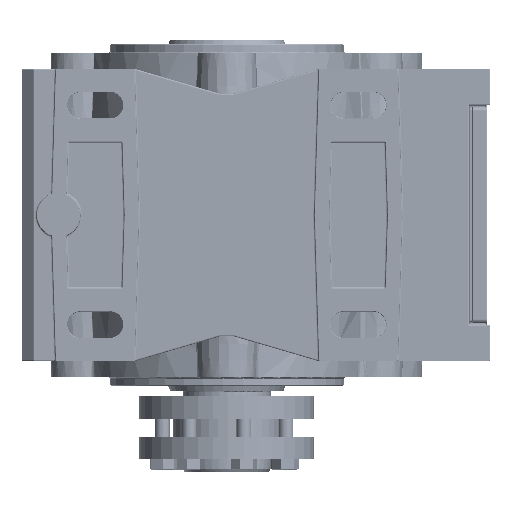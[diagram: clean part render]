
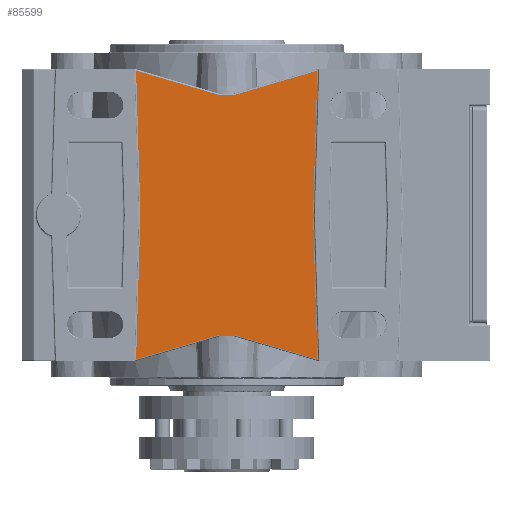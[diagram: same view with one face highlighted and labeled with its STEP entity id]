
A CAD part, left-side view. The second image highlights one B-rep face of the part: STEP entity #85599.
In plain terms, the highlighted planar face has unit normal (-1, 0, 0).
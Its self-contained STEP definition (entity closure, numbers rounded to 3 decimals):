
#79866=CARTESIAN_POINT('',(-69.0,-2.778,-62.561));
#79867=VERTEX_POINT('',#79866);
#79885=CARTESIAN_POINT('',(-69.0,-30.98,-70.826));
#79886=VERTEX_POINT('',#79885);
#79894=CARTESIAN_POINT('',(-69.0,-30.98,-70.826));
#79895=DIRECTION('',(0.0,0.96,0.281));
#79896=VECTOR('',#79895,29.388);
#79897=LINE('',#79894,#79896);
#79898=EDGE_CURVE('',#79886,#79867,#79897,.T.);
#79908=CARTESIAN_POINT('',(-69.0,-2.356,-62.5));
#79909=VERTEX_POINT('',#79908);
#79927=CARTESIAN_POINT('',(-69.0,-2.356,-64.));
#79928=DIRECTION('',(-1.0,0.,0.));
#79929=DIRECTION('',(0.,-0.142,0.99));
#79930=AXIS2_PLACEMENT_3D('',#79927,#79928,#79929);
#79931=CIRCLE('',#79930,1.5);
#79932=EDGE_CURVE('',#79867,#79909,#79931,.T.);
#79942=CARTESIAN_POINT('',(-69.0,2.356,-62.5));
#79943=VERTEX_POINT('',#79942);
#79960=CARTESIAN_POINT('',(-69.0,-2.356,-62.5));
#79961=DIRECTION('',(0.0,1.0,0.0));
#79962=VECTOR('',#79961,4.713);
#79963=LINE('',#79960,#79962);
#79964=EDGE_CURVE('',#79909,#79943,#79963,.T.);
#79974=CARTESIAN_POINT('',(-69.0,2.778,-62.561));
#79975=VERTEX_POINT('',#79974);
#79993=CARTESIAN_POINT('',(-69.0,2.356,-64.));
#79994=DIRECTION('',(-1.0,0.,0.));
#79995=DIRECTION('',(0.,0.142,0.99));
#79996=AXIS2_PLACEMENT_3D('',#79993,#79994,#79995);
#79997=CIRCLE('',#79996,1.5);
#79998=EDGE_CURVE('',#79943,#79975,#79997,.T.);
#80008=CARTESIAN_POINT('',(-69.,30.98,-70.826));
#80009=VERTEX_POINT('',#80008);
#80026=CARTESIAN_POINT('',(-69.0,2.778,-62.561));
#80027=DIRECTION('',(0.,0.96,-0.281));
#80028=VECTOR('',#80027,29.388);
#80029=LINE('',#80026,#80028);
#80030=EDGE_CURVE('',#79975,#80009,#80029,.T.);
#80319=CARTESIAN_POINT('',(-69.0,-29.501,-21.53));
#80320=VERTEX_POINT('',#80319);
#80328=CARTESIAN_POINT('',(-69.0,-29.501,-21.53));
#80329=DIRECTION('',(0.0,-0.03,-1.));
#80330=VECTOR('',#80329,49.319);
#80331=LINE('',#80328,#80330);
#80332=EDGE_CURVE('',#80320,#79886,#80331,.T.);
#80723=CARTESIAN_POINT('',(-69.0,2.778,19.561));
#80724=VERTEX_POINT('',#80723);
#80742=CARTESIAN_POINT('',(-69.,30.98,27.826));
#80743=VERTEX_POINT('',#80742);
#80751=CARTESIAN_POINT('',(-69.,30.98,27.826));
#80752=DIRECTION('',(0.,-0.96,-0.281));
#80753=VECTOR('',#80752,29.388);
#80754=LINE('',#80751,#80753);
#80755=EDGE_CURVE('',#80743,#80724,#80754,.T.);
#80765=CARTESIAN_POINT('',(-69.0,2.356,19.5));
#80766=VERTEX_POINT('',#80765);
#80784=CARTESIAN_POINT('',(-69.0,2.356,21.0));
#80785=DIRECTION('',(-1.0,0.,0.));
#80786=DIRECTION('',(0.,0.142,-0.99));
#80787=AXIS2_PLACEMENT_3D('',#80784,#80785,#80786);
#80788=CIRCLE('',#80787,1.5);
#80789=EDGE_CURVE('',#80724,#80766,#80788,.T.);
#80799=CARTESIAN_POINT('',(-69.0,-2.356,19.5));
#80800=VERTEX_POINT('',#80799);
#80817=CARTESIAN_POINT('',(-69.0,2.356,19.5));
#80818=DIRECTION('',(0.0,-1.0,0.0));
#80819=VECTOR('',#80818,4.713);
#80820=LINE('',#80817,#80819);
#80821=EDGE_CURVE('',#80766,#80800,#80820,.T.);
#80831=CARTESIAN_POINT('',(-69.0,-2.778,19.561));
#80832=VERTEX_POINT('',#80831);
#80850=CARTESIAN_POINT('',(-69.0,-2.356,21.0));
#80851=DIRECTION('',(-1.0,0.,0.));
#80852=DIRECTION('',(0.,-0.142,-0.99));
#80853=AXIS2_PLACEMENT_3D('',#80850,#80851,#80852);
#80854=CIRCLE('',#80853,1.5);
#80855=EDGE_CURVE('',#80800,#80832,#80854,.T.);
#80865=CARTESIAN_POINT('',(-69.0,-30.98,27.826));
#80866=VERTEX_POINT('',#80865);
#80883=CARTESIAN_POINT('',(-69.0,-2.778,19.561));
#80884=DIRECTION('',(0.0,-0.96,0.281));
#80885=VECTOR('',#80884,29.388);
#80886=LINE('',#80883,#80885);
#80887=EDGE_CURVE('',#80832,#80866,#80886,.T.);
#83580=CARTESIAN_POINT('',(-69.,29.5,-21.479));
#83581=VERTEX_POINT('',#83580);
#83589=CARTESIAN_POINT('',(-69.,29.5,-21.479));
#83590=DIRECTION('',(0.0,0.03,1.));
#83591=VECTOR('',#83590,49.328);
#83592=LINE('',#83589,#83591);
#83593=EDGE_CURVE('',#83581,#80743,#83592,.T.);
#83603=CARTESIAN_POINT('',(-69.,29.5,-21.521));
#83604=VERTEX_POINT('',#83603);
#83612=CARTESIAN_POINT('',(-69.,30.2,-21.5));
#83613=DIRECTION('',(-1.0,0.0,0.0));
#83614=DIRECTION('',(0.0,-1.0,0.0));
#83615=AXIS2_PLACEMENT_3D('',#83612,#83613,#83614);
#83616=CIRCLE('',#83615,0.7);
#83617=EDGE_CURVE('',#83604,#83581,#83616,.T.);
#83630=CARTESIAN_POINT('',(-69.,30.98,-70.826));
#83631=DIRECTION('',(0.0,-0.03,1.));
#83632=VECTOR('',#83631,49.328);
#83633=LINE('',#83630,#83632);
#83634=EDGE_CURVE('',#80009,#83604,#83633,.T.);
#85538=CARTESIAN_POINT('',(-69.0,-29.501,-21.47));
#85539=VERTEX_POINT('',#85538);
#85547=CARTESIAN_POINT('',(-69.0,-30.5,-21.5));
#85548=DIRECTION('',(-1.0,0.0,0.0));
#85549=DIRECTION('',(0.0,1.0,0.0));
#85550=AXIS2_PLACEMENT_3D('',#85547,#85548,#85549);
#85551=CIRCLE('',#85550,1.0);
#85552=EDGE_CURVE('',#85539,#80320,#85551,.T.);
#85565=CARTESIAN_POINT('',(-69.0,-30.98,27.826));
#85566=DIRECTION('',(0.0,0.03,-1.));
#85567=VECTOR('',#85566,49.319);
#85568=LINE('',#85565,#85567);
#85569=EDGE_CURVE('',#80866,#85539,#85568,.T.);
#85576=CARTESIAN_POINT('',(-69.0,0.,3.836));
#85577=DIRECTION('',(1.0,0.0,0.0));
#85578=DIRECTION('',(0.0,0.0,-1.0));
#85579=AXIS2_PLACEMENT_3D('',#85576,#85577,#85578);
#85580=PLANE('',#85579);
#85581=ORIENTED_EDGE('',*,*,#79898,.F.);
#85582=ORIENTED_EDGE('',*,*,#80332,.F.);
#85583=ORIENTED_EDGE('',*,*,#85552,.F.);
#85584=ORIENTED_EDGE('',*,*,#85569,.F.);
#85585=ORIENTED_EDGE('',*,*,#80887,.F.);
#85586=ORIENTED_EDGE('',*,*,#80855,.F.);
#85587=ORIENTED_EDGE('',*,*,#80821,.F.);
#85588=ORIENTED_EDGE('',*,*,#80789,.F.);
#85589=ORIENTED_EDGE('',*,*,#80755,.F.);
#85590=ORIENTED_EDGE('',*,*,#83593,.F.);
#85591=ORIENTED_EDGE('',*,*,#83617,.F.);
#85592=ORIENTED_EDGE('',*,*,#83634,.F.);
#85593=ORIENTED_EDGE('',*,*,#80030,.F.);
#85594=ORIENTED_EDGE('',*,*,#79998,.F.);
#85595=ORIENTED_EDGE('',*,*,#79964,.F.);
#85596=ORIENTED_EDGE('',*,*,#79932,.F.);
#85597=EDGE_LOOP('',(#85581,#85582,#85583,#85584,#85585,#85586,#85587,#85588,#85589,#85590,#85591,#85592,#85593,#85594,#85595,#85596));
#85598=FACE_OUTER_BOUND('',#85597,.T.);
#85599=ADVANCED_FACE('',(#85598),#85580,.F.);
